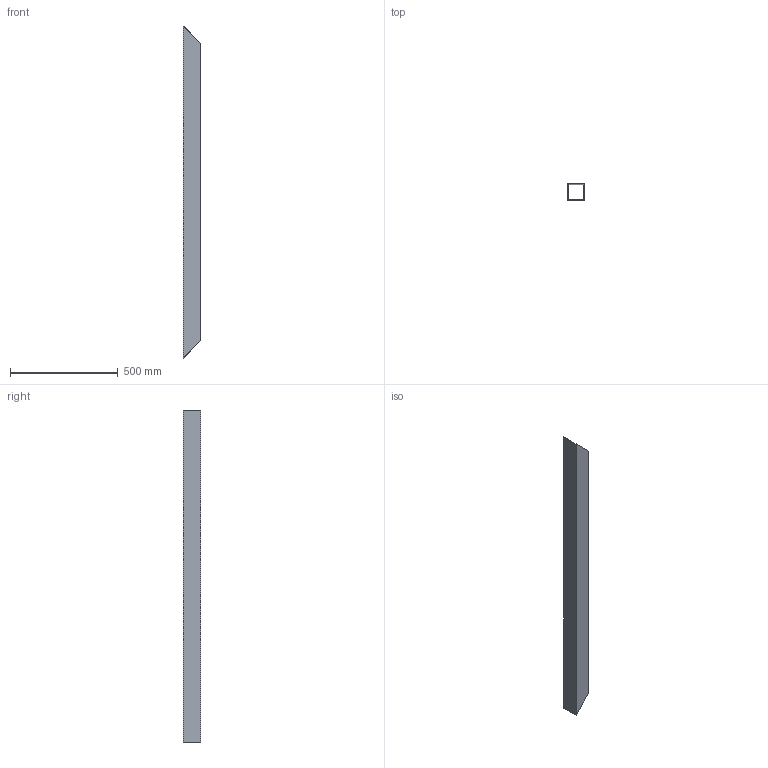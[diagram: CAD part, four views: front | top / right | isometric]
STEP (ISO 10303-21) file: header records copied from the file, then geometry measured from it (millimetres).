
FILE_DESCRIPTION(('Open CASCADE Model'),'2;1');
FILE_NAME('Open CASCADE Shape Model','2026-10-15T15:10:04',('Author'),( 'Open CASCADE'),'Open CASCADE STEP processor 8.0','Open CASCADE 8.0' ,'Unknown');
FILE_SCHEMA(('AUTOMOTIVE_DESIGN { 1 0 10303 214 1 1 1 1 }'));
Length unit declared in the file: millimetre
Products named in the file (1): SHS80x80x4_L1463138_CUTd759b0_P05 13
Bounding box: 80 x 80 x 1543.14 mm (x, y, z)
Volume: 1779176.3 mm3; surface area: 893027.5 mm2
Topology: 1 solids, 1 shells, 10 faces, 24 edges, 16 vertices
Faces by surface type: plane 10
Entity records: 586 total; most frequent: CARTESIAN_POINT 127, DIRECTION 66, ORIENTED_EDGE 48, PCURVE 48, DEFINITIONAL_REPRESENTATION 48, LINE 44, VECTOR 44, B_SPLINE_CURVE_WITH_KNOTS 28
